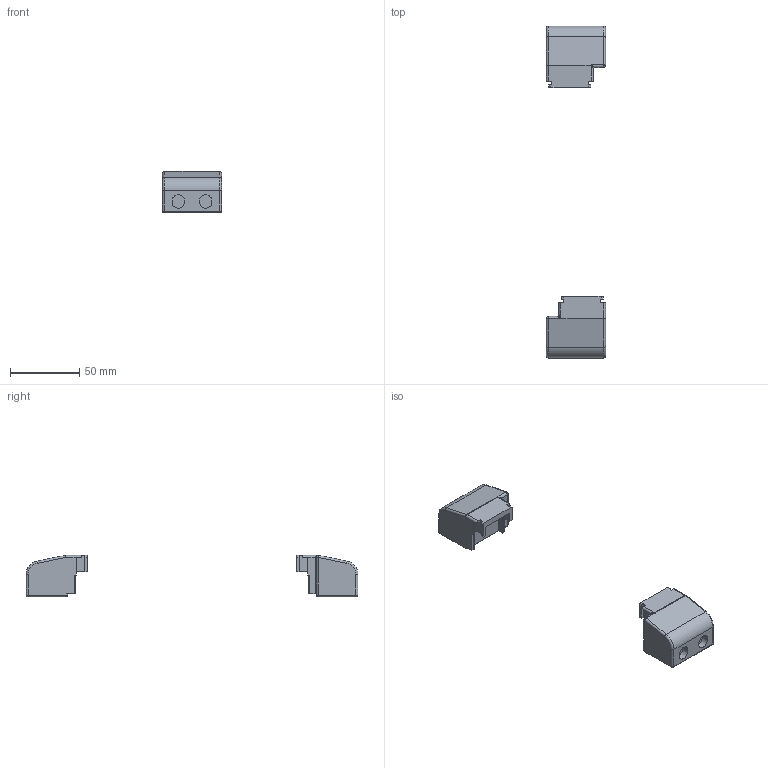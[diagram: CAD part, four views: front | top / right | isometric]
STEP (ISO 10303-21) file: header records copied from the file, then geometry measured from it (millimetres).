
FILE_DESCRIPTION((''),'2;1');
FILE_NAME('DEWI_SR-STD_DMEC_ASSY_180','2016-07-11T',('Emanuel.Wild'),(''),'PRO/ENGINEER BY PARAMETRIC TECHNOLOGY CORPORATION, 2015200','PRO/ENGINEER BY PARAMETRIC TECHNOLOGY CORPORATION, 2015200','');
FILE_SCHEMA(('AUTOMOTIVE_DESIGN { 1 0 10303 214 1 1 1 1 }'));
Length unit declared in the file: millimetre
Products named in the file (2): DEWI_SR-STD_DMEC; DEWI_SR-STD_DMEC_ASSY_180
Assembly tree (2 placements, depth 2):
  DEWI_SR-STD_DMEC_ASSY_180
    DEWI_SR-STD_DMEC  x2
Bounding box: 42.8 x 240 x 29.8 mm (x, y, z)
Volume: 66408.4 mm3; surface area: 18943.6 mm2
Topology: 2 solids, 2 shells, 196 faces, 504 edges, 316 vertices
Faces by surface type: plane 112, cylinder 58, bspline 12, sphere 8, torus 6
Entity records: 3844 total; most frequent: CARTESIAN_POINT 770, DIRECTION 504, ORIENTED_EDGE 504, EDGE_CURVE 252, VECTOR 180, LINE 180, AXIS2_PLACEMENT_3D 162, VERTEX_POINT 158
